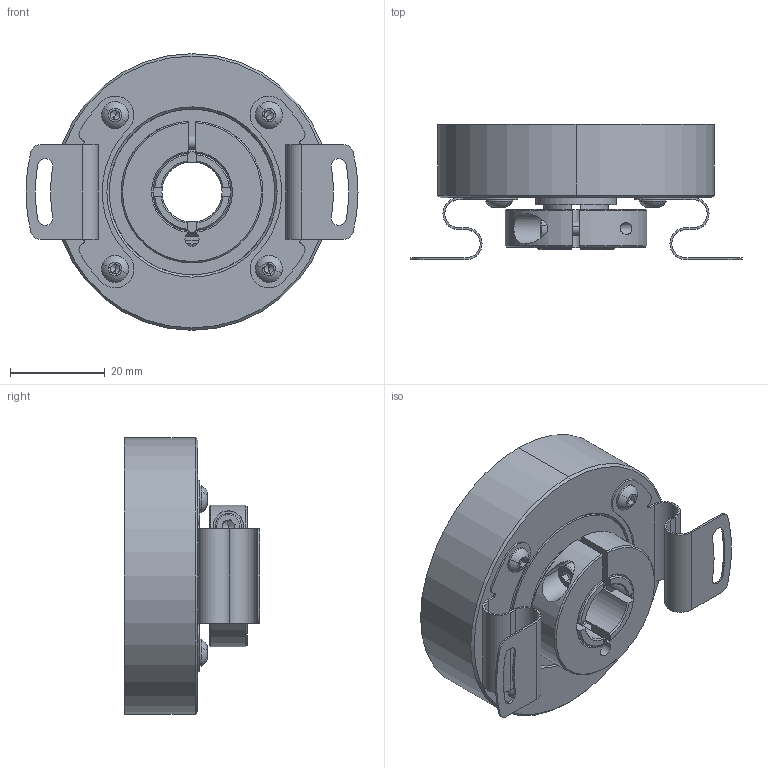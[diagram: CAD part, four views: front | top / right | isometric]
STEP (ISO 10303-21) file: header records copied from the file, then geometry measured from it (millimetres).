
FILE_DESCRIPTION (( 'STEP AP214' ), '1' );
FILE_NAME ('drawing-ucd-htss-q5b-n.STEP', '2016-11-08T15:55:46', ( '' ), ( '' ), 'SwSTEP 2.0', 'SolidWorks 2015', '' );
FILE_SCHEMA (( 'AUTOMOTIVE_DESIGN' ));
Length unit declared in the file: millimetre
Products named in the file (1): drawing-ucd-htss-q5b-n
Bounding box: 70.2 x 28.6 x 58.5 mm (x, y, z)
Volume: 41156.4 mm3; surface area: 28602.5 mm2
Topology: 29 solids, 29 shells, 704 faces, 1715 edges, 1049 vertices
Faces by surface type: plane 265, cylinder 167, bspline 150, cone 102, torus 12, sphere 8
Entity records: 34254 total; most frequent: CARTESIAN_POINT 10493, ORIENTED_EDGE 3302, DIRECTION 3090, EDGE_CURVE 1651, AXIS2_PLACEMENT_3D 1130, VERTEX_POINT 1049, VECTOR 830, LINE 830
